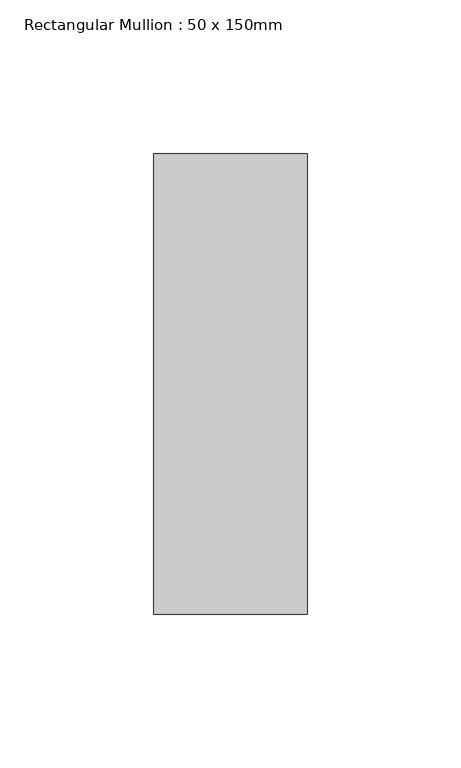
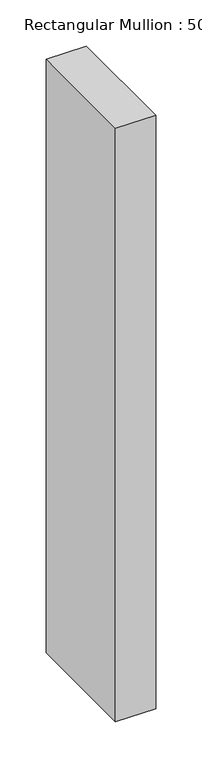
"""IFC4 building model written with IfcOpenShell, lengths in millimetres: member geometry, Rectangular Mullion : 50 x 150mm."""

from ifc_helpers import new_model, si_unit, frame, origin, place, context, project, spatial, polyline, outline, extrude, source, transform, mapped, element, save


def rectangular_mullion_50_x_150mm_9f0cf5c8(model_context):
    return source(origin(), model_context, "Body", "SweptSolid", [
        extrude(outline(polyline([(0.0, 75.0), (0.0, -75.0), (-50.0, -75.0), (-50.0, 75.0), (0.0, 75.0)])), frame((0.0, 0.0, -784.1666666), z_axis=(0.0, 0.0, 1.0), x_axis=(1.0, 0.0, 0.0)), (0.0, 0.0, 1.0), 784.1666666),
    ])


if __name__ == "__main__":
    model = new_model("IFC4")
    model_context = context("Model", 3, world=origin())
    ifc_project = project(units=[si_unit("LENGTHUNIT", "METRE", prefix="MILLI")], contexts=[model_context])
    site = spatial("IfcSite", under=ifc_project)
    building = spatial("IfcBuilding", under=site)
    placement = place(None, origin())
    rectangular_mullion_50_x_150mm_shape = rectangular_mullion_50_x_150mm_9f0cf5c8(model_context)
    element("IfcMember", 1, ObjectType="Rectangular Mullion : 50 x 150mm", at=placement, inside=building, context=model_context, shape_type="MappedRepresentation", body=[
        mapped(rectangular_mullion_50_x_150mm_shape, transform((0.0, 0.0, 0.0), x_axis=(1.0, 0.0, 0.0), y_axis=(0.0, 1.0, 0.0), z_axis=(0.0, 0.0, 1.0))),
    ])
    save(model, "model.ifc")
